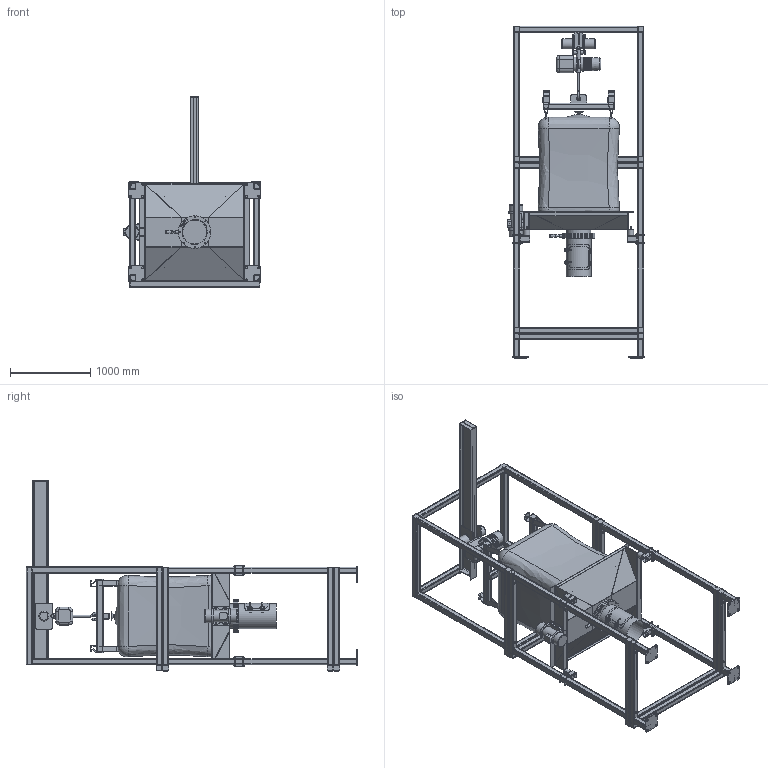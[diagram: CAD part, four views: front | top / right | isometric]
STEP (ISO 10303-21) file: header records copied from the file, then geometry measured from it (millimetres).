
FILE_DESCRIPTION(/* description */ (' BagFlo 500 HT (minimum dimensions)'),/* implementation_level */ '2;1');
FILE_NAME(/* name */ 'B:\Sales Drawings\Sales Drawing- Bagflo 500 HT (Min Dimensions)\Inventor\005566 BagFlo 500 HT (minimum dimensions).stp',/* time_stamp */ '2021-05-06T16:04:22-05:00',/* author */ ('rwest'),/* organization */ (''),/* preprocessor_version */ 'ST-DEVELOPER v17',/* originating_system */ 'Autodesk Inventor 2019',/* authorisation */ '');
FILE_SCHEMA (('AUTOMOTIVE_DESIGN { 1 0 10303 214 3 1 1 }'));
Length unit declared in the file: inch
Products named in the file (60): 005566; 002458; 005026; AISC - 3x3x1/4 - 8.5; 002782; AISC - 3x3x1/4 - 78; 002815; AISC - 3x3x1_4 - 4.5; 5 x 5 x 0.5; 002616; 000009; Bag Pan Ring; AISC - 55.5x48 - 0.1345; Bag Pan 48 Channel; AISC - L 3 x 3 x 1/4 - 8.5; Bag Pan Collar; Bag Pan Ramp; UBB12QL-UR-FPAK; Iris Ring; Iris Handle; 000038; Access Door Chamber; Access Door; Hinge - Access Door; Hinge Pin; Hinge 3 Hoop; Hinge 2 Hoop; Latch; Base; Arm; Bolt; Latch Handle; Latch Lock; Latch Part 1; Latch Part 2; Latch_1; Nut; 000539; AISC - 3x3x1_4 - 48 Connection; AISC - 3x3x1/4 - 48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
Assembly tree (136 placements, depth 4):
  005566
    002458
      005026  x4
      AISC - 3x3x1_4 - 48 Connection  x2
      AISC - 3x3x1/4 - 8.5  x4
      AISC - 3x3x1/4 - 64
      AISC - 2-1/2 x 2-1/2 x 10 Gauge  x4
    002782
      AISC - 3x3x1_4 - 48 Connection  x4
      AISC - 3x3x1/4 - 64  x2
      AISC - 3x3x1/4 - 78  x4
      AISC - 2-1/2 x 2-1/2 x 10 Gauge  x8
    002815  x4
      AISC - 3x3x1_4 - 4.5
      5 x 5 x 0.5
    002616  x8
    000009
      Bag Pan Ring
      AISC - 55.5x48 - 0.1345
      Bag Pan 48 Channel  x2
      AISC - L 3 x 3 x 1/4 - 8.5  x2
      Bag Pan Collar
      Bag Pan Ramp  x2
    UBB12QL-UR-FPAK
      Iris Ring
      Iris Handle
    000038
      Access Door Chamber
      Access Door
      Hinge - Access Door  x2
        Hinge Pin
        Hinge 3 Hoop
        Hinge 2 Hoop
      Latch  x2
        Base
        Arm
        Bolt
        Latch Handle
        Latch Lock
        Latch Part 1
        Latch Part 2
        Latch_1
        Nut
    000539
      AISC - 3x3x1_4 - 48 Connection  x2
      AISC - 3x3x1/4 - 48  x2
      AISC - 3x3x1/4 - 58  x2
      AISC - 3x3x1/4 - 61  x4
      AISC - 3x3x1/4 - 64
      AISC - S 8 x 23 - 90
      AISC - L  3 x 3 x 1_4 - 5.5  x2
      4.171 x 8 x 1_4 Plate
      AISC - 2-1/2 x 2-1/2 x 10 Gauge  x8
    Bag
      Bag  44x44x40
      Bag Straps  x4
    100-CA
      Main Lifting Plate 4 x 8 x .75 Thick Steel
      AISC - 3x3x1/4 - 35  x3
      AISC - L 3 x 3 x 1/4 - 3  x4
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Bounding box: 1717.65 x 4140.2 x 2371.72 mm (x, y, z)
Volume: 1342956378.3 mm3; surface area: 41121780.1 mm2
Topology: 141 solids, 141 shells, 2464 faces, 6303 edges, 4151 vertices
Faces by surface type: plane 1312, cylinder 972, torus 108, bspline 54, sphere 14, cone 4
Full cylindrical faces by diameter (mm): 2.54 x1, 3.175 x2, 4.762 x10, 4.763 x4, 6.35 x10, 7.144 x2, 7.938 x8, 8.731 x8, 9.525 x28, 12.7 x62, 14.287 x4, 15.875 x10, 18 x4, 19.05 x4, 25.4 x48, 26.5 x2, 28.575 x1, 34.925 x1, 41.275 x6, 50.8 x1, 54.864 x1, 76.2 x4, 93.98 x4, 126.492 x2, 170 x2, 177.8 x2, 297.967 x1, 304.8 x7, 311.252 x1, 355.6 x1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
Entity records: 38404 total; most frequent: CARTESIAN_POINT 8658, DIRECTION 6025, ORIENTED_EDGE 5624, EDGE_CURVE 2812, AXIS2_PLACEMENT_3D 2282, VERTEX_POINT 1869, LINE 1461, VECTOR 1461
